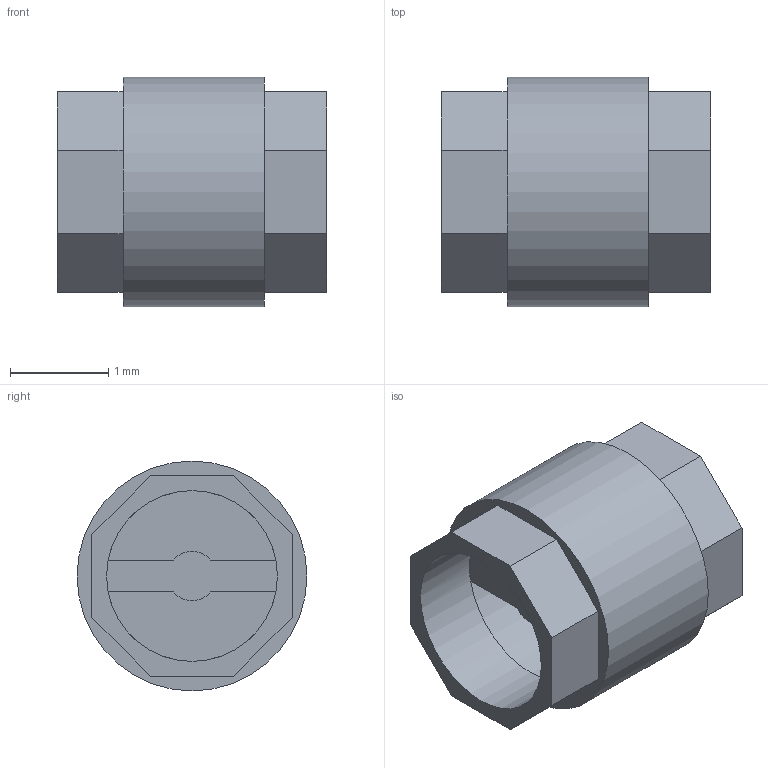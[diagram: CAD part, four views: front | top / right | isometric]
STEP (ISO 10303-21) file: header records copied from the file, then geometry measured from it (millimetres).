
FILE_DESCRIPTION(('Open CASCADE Model'),'2;1');
FILE_NAME('Open CASCADE Shape Model','2021-10-27T09:09:57',('Author'),( 'Open CASCADE'),'Open CASCADE STEP processor 7.3','Open CASCADE 7.3' ,'Unknown');
FILE_SCHEMA(('AUTOMOTIVE_DESIGN { 1 0 10303 214 1 1 1 1 }'));
Length unit declared in the file: millimetre
Products named in the file (1): Open CASCADE STEP translator 7.3 1
Bounding box: 2.74 x 2.34 x 2.34 mm (x, y, z)
Volume: 2.8 mm3; surface area: 53.8 mm2
Topology: 1 solids, 1 shells, 51 faces, 140 edges, 89 vertices
Faces by surface type: plane 40, cylinder 11
Full cylindrical faces by diameter (mm): 0.235 x2, 1.74 x2, 2.081 x1, 2.196 x1, 2.34 x1
Entity records: 3480 total; most frequent: CARTESIAN_POINT 628, DIRECTION 540, LINE 347, VECTOR 347, ORIENTED_EDGE 280, PCURVE 280, DEFINITIONAL_REPRESENTATION 280, EDGE_CURVE 140
